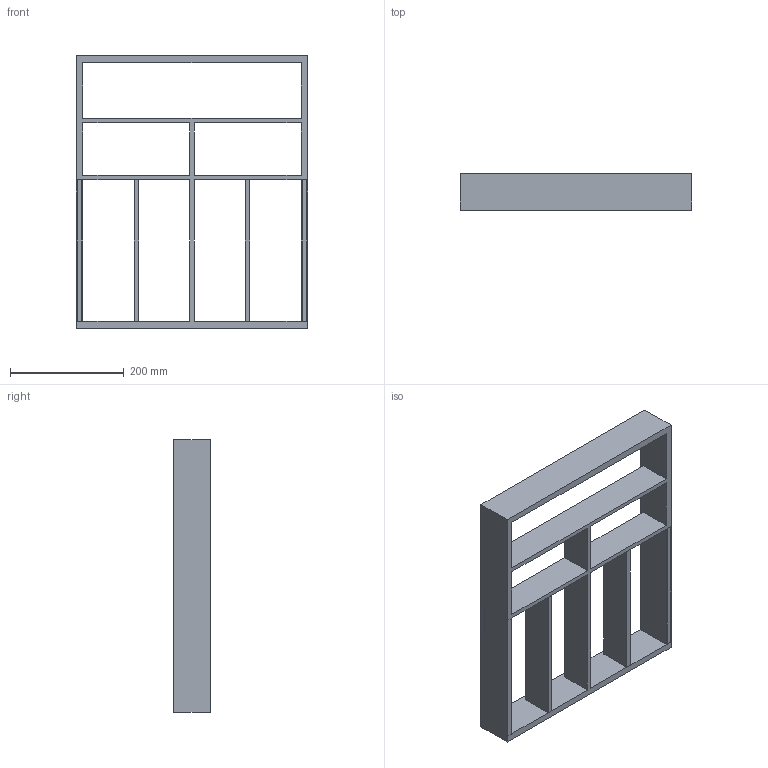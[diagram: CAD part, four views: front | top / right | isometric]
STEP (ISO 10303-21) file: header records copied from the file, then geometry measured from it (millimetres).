
FILE_DESCRIPTION (( 'STEP AP214' ), '1' );
FILE_NAME ('Vario Besteck NL500_B500_16 mm_Buche.step', '2010-11-04T08:33:05', ( 'grass' ), ( '' ), 'SwSTEP 2.0', 'SolidWorks 2010', '' );
FILE_SCHEMA (( 'AUTOMOTIVE_DESIGN' ));
Length unit declared in the file: millimetre
Products named in the file (1): Vario Besteck NL500_B500_16 mm_Buche
Bounding box: 408 x 65 x 479 mm (x, y, z)
Volume: 2306160 mm3; surface area: 539454 mm2
Topology: 5 solids, 5 shells, 46 faces, 120 edges, 80 vertices
Faces by surface type: plane 46
Entity records: 1474 total; most frequent: CARTESIAN_POINT 247, ORIENTED_EDGE 240, DIRECTION 214, VECTOR 120, LINE 120, EDGE_CURVE 120, VERTEX_POINT 80, EDGE_LOOP 52
